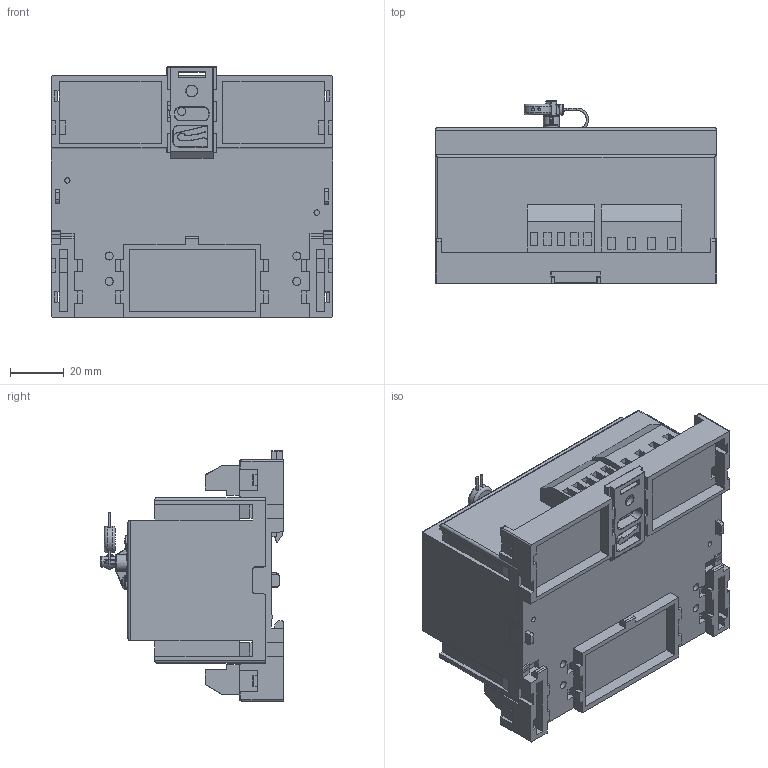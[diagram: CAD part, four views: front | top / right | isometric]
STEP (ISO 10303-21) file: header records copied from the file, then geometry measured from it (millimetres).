
FILE_DESCRIPTION (( 'STEP AP214' ), '1' );
FILE_NAME ('12420-1900-00.STEP', '2013-12-12T13:00:36', ( '' ), ( '' ), 'SwSTEP 2.0', 'SolidWorks 2013', '' );
FILE_SCHEMA (( 'AUTOMOTIVE_DESIGN' ));
Length unit declared in the file: millimetre
Products named in the file (14): 12420-1900-00; Plombe; Typenschild_12420-1200-03_3D; plombierteil; 31175104; 31071106; 31071105; 31071103; 3_1; V-Riegel_3D; V6_Oberteil; V6_Leiterplatte; V6_Frontplatte; V6_Unterteil
Assembly tree (14 placements, depth 2):
  12420-1900-00
    V6_Unterteil
    V6_Frontplatte
    V6_Leiterplatte
    V6_Oberteil
    V-Riegel_3D
    3_1
    31071103
    31071105
    31071106  x2
    31175104
    plombierteil
    Typenschild_12420-1200-03_3D
    Plombe
Bounding box: 105.01 x 68.2 x 93.34 mm (x, y, z)
Volume: 99016.9 mm3; surface area: 113100.5 mm2
Topology: 767 solids, 767 shells, 8411 faces, 20171 edges, 13322 vertices
Faces by surface type: plane 6663, bspline 1343, cylinder 344, torus 40, sphere 14, cone 7
Full cylindrical faces by diameter (mm): 0.6 x2, 0.608 x5, 0.9 x2, 1 x6, 1.5 x5, 1.7 x1, 1.8 x4, 2 x3, 2.5 x1, 2.8 x4, 2.9 x1, 3 x6, 3.2 x2, 3.5 x4, 4 x26, 4.1 x1, 4.2 x1, 4.5 x2, 10 x1
Entity records: 284052 total; most frequent: CARTESIAN_POINT 90755, ORIENTED_EDGE 39452, DIRECTION 31126, EDGE_CURVE 19726, VECTOR 16030, LINE 16030, VERTEX_POINT 13109, EDGE_LOOP 8787
